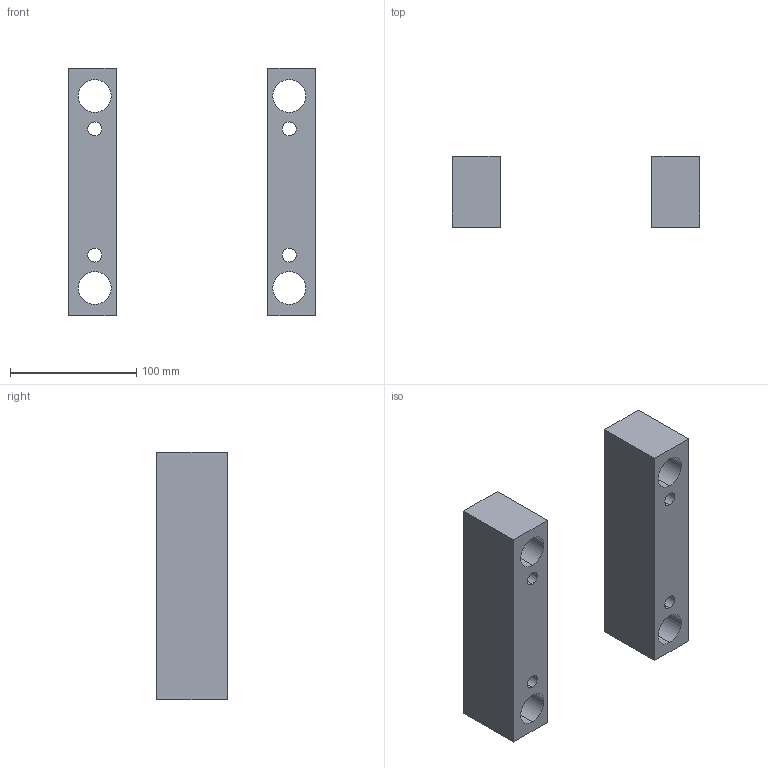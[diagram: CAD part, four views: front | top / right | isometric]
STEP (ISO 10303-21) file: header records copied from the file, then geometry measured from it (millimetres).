
FILE_DESCRIPTION (( 'STEP AP214' ), '1' );
FILE_NAME ('L50_196x196x56.STEP', '2018-10-05T18:57:46', ( '' ), ( '' ), 'SwSTEP 2.0', 'SolidWorks 2014', '' );
FILE_SCHEMA (( 'AUTOMOTIVE_DESIGN' ));
Length unit declared in the file: millimetre
Products named in the file (1): L50_196x196x56
Bounding box: 196 x 56 x 196 mm (x, y, z)
Volume: 693960.4 mm3; surface area: 103237.8 mm2
Topology: 2 solids, 2 shells, 28 faces, 72 edges, 48 vertices
Faces by surface type: cylinder 16, plane 12
Entity records: 943 total; most frequent: DIRECTION 162, CARTESIAN_POINT 149, ORIENTED_EDGE 144, EDGE_CURVE 72, AXIS2_PLACEMENT_3D 61, VERTEX_POINT 48, EDGE_LOOP 44, LINE 40
